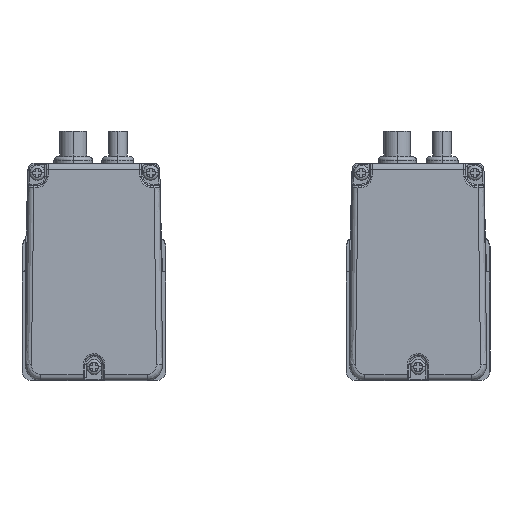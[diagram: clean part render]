
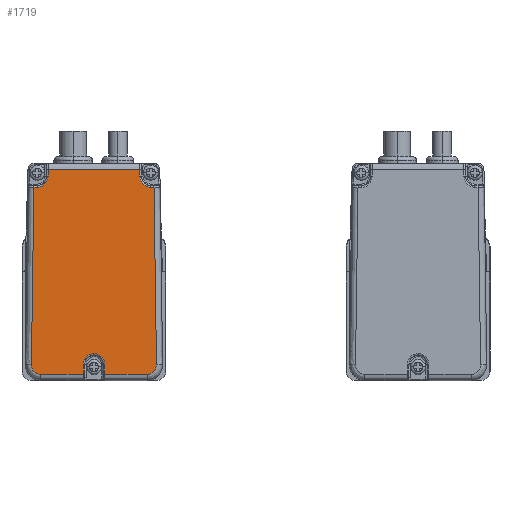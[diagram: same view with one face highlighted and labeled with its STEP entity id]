
A CAD part, left-side view. The second image highlights one B-rep face of the part: STEP entity #1719.
In plain terms, the highlighted planar face has unit normal (-1, 0, 0).
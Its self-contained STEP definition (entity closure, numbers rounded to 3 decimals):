
#1719=ADVANCED_FACE('',(#4079),#4080,.F.);
#4079=FACE_OUTER_BOUND('',#8077,.T.);
#4080=PLANE('',#8078);
#8077=EDGE_LOOP('',(#60075,#60076,#60077,#60078,#60079,#60080,#60081,#60082,#60083,#60084,#60085,#60086,#60087,#60088,#60089,#60090,#60091));
#8078=AXIS2_PLACEMENT_3D('',#60092,#60093,#60094);
#60075=ORIENTED_EDGE('',*,*,#68423,.F.);
#60076=ORIENTED_EDGE('',*,*,#68424,.F.);
#60077=ORIENTED_EDGE('',*,*,#68425,.F.);
#60078=ORIENTED_EDGE('',*,*,#68426,.F.);
#60079=ORIENTED_EDGE('',*,*,#67993,.F.);
#60080=ORIENTED_EDGE('',*,*,#68427,.F.);
#60081=ORIENTED_EDGE('',*,*,#68428,.F.);
#60082=ORIENTED_EDGE('',*,*,#68429,.F.);
#60083=ORIENTED_EDGE('',*,*,#67848,.F.);
#60084=ORIENTED_EDGE('',*,*,#68430,.F.);
#60085=ORIENTED_EDGE('',*,*,#68431,.F.);
#60086=ORIENTED_EDGE('',*,*,#68432,.F.);
#60087=ORIENTED_EDGE('',*,*,#68433,.F.);
#60088=ORIENTED_EDGE('',*,*,#68081,.F.);
#60089=ORIENTED_EDGE('',*,*,#68434,.F.);
#60090=ORIENTED_EDGE('',*,*,#67996,.F.);
#60091=ORIENTED_EDGE('',*,*,#68435,.F.);
#60092=CARTESIAN_POINT('',(60.75,84.221,103.38));
#60093=DIRECTION('',(1.0,0.0,0.0));
#60094=DIRECTION('',(0.0,0.0,-1.0));
#67848=EDGE_CURVE('',#71648,#71650,#71651,.T.);
#67993=EDGE_CURVE('',#71903,#71898,#71905,.T.);
#67996=EDGE_CURVE('',#71907,#71910,#71911,.T.);
#68081=EDGE_CURVE('',#72057,#72060,#72061,.T.);
#68423=EDGE_CURVE('',#72644,#72645,#72646,.T.);
#68424=EDGE_CURVE('',#72647,#72644,#72648,.T.);
#68425=EDGE_CURVE('',#72649,#72647,#72650,.T.);
#68426=EDGE_CURVE('',#71898,#72649,#72651,.T.);
#68427=EDGE_CURVE('',#72652,#71903,#72653,.T.);
#68428=EDGE_CURVE('',#72654,#72652,#72655,.T.);
#68429=EDGE_CURVE('',#71650,#72654,#72656,.T.);
#68430=EDGE_CURVE('',#72657,#71648,#72658,.T.);
#68431=EDGE_CURVE('',#72659,#72657,#72660,.T.);
#68432=EDGE_CURVE('',#72661,#72659,#72662,.T.);
#68433=EDGE_CURVE('',#72060,#72661,#72663,.T.);
#68434=EDGE_CURVE('',#71910,#72057,#72664,.T.);
#68435=EDGE_CURVE('',#72645,#71907,#72665,.T.);
#71648=VERTEX_POINT('',#77091);
#71650=VERTEX_POINT('',#77093);
#71651=LINE('',#77094,#77095);
#71898=VERTEX_POINT('',#78588);
#71903=VERTEX_POINT('',#78594);
#71905=LINE('',#78596,#78597);
#71907=VERTEX_POINT('',#78599);
#71910=VERTEX_POINT('',#78602);
#71911=ELLIPSE('',#78603,3.5,3.352);
#72057=VERTEX_POINT('',#80819);
#72060=VERTEX_POINT('',#80822);
#72061=LINE('',#80823,#80824);
#72644=VERTEX_POINT('',#83833);
#72645=VERTEX_POINT('',#83834);
#72646=LINE('',#83835,#83836);
#72647=VERTEX_POINT('',#83837);
#72648=LINE('',#83838,#83839);
#72649=VERTEX_POINT('',#83840);
#72650=ELLIPSE('',#83841,3.,2.873);
#72651=LINE('',#83842,#83843);
#72652=VERTEX_POINT('',#83844);
#72653=ELLIPSE('',#83845,3.5,3.352);
#72654=VERTEX_POINT('',#83846);
#72655=LINE('',#83847,#83848);
#72656=LINE('',#83849,#83850);
#72657=VERTEX_POINT('',#83851);
#72658=ELLIPSE('',#83852,3.5,3.352);
#72659=VERTEX_POINT('',#83853);
#72660=LINE('',#83854,#83855);
#72661=VERTEX_POINT('',#83856);
#72662=LINE('',#83857,#83858);
#72663=ELLIPSE('',#83859,3.,2.873);
#72664=LINE('',#83860,#83861);
#72665=ELLIPSE('',#83862,3.5,3.352);
#77091=CARTESIAN_POINT('',(60.75,118.162,101.38));
#77093=CARTESIAN_POINT('',(60.75,118.162,103.38));
#77094=CARTESIAN_POINT('',(60.75,118.162,86.63));
#77095=VECTOR('',#151533,1.);
#78588=CARTESIAN_POINT('',(60.75,85.02,97.88));
#78594=CARTESIAN_POINT('',(60.75,86.083,97.88));
#78596=CARTESIAN_POINT('',(60.75,94.701,97.88));
#78597=VECTOR('',#151728,0.958);
#78599=CARTESIAN_POINT('',(60.75,103.798,45.88));
#78602=CARTESIAN_POINT('',(60.75,107.149,42.38));
#78603=AXIS2_PLACEMENT_3D('',#151732,#151733,#151734);
#80819=CARTESIAN_POINT('',(60.75,107.149,39.38));
#80822=CARTESIAN_POINT('',(60.75,120.485,39.38));
#80823=CARTESIAN_POINT('',(60.75,103.798,39.38));
#80824=VECTOR('',#151839,0.958);
#83833=CARTESIAN_POINT('',(60.75,100.446,39.38));
#83834=CARTESIAN_POINT('',(60.75,100.446,42.38));
#83835=CARTESIAN_POINT('',(60.75,100.446,56.38));
#83836=VECTOR('',#152317,1.);
#83837=CARTESIAN_POINT('',(60.75,87.111,39.38));
#83838=CARTESIAN_POINT('',(60.75,103.798,39.38));
#83839=VECTOR('',#152318,0.958);
#83840=CARTESIAN_POINT('',(60.75,84.239,42.425));
#83841=AXIS2_PLACEMENT_3D('',#152319,#152320,#152321);
#83842=CARTESIAN_POINT('',(60.75,84.648,71.513));
#83843=VECTOR('',#152322,1.);
#83844=CARTESIAN_POINT('',(60.75,89.434,101.38));
#83845=AXIS2_PLACEMENT_3D('',#152323,#152324,#152325);
#83846=CARTESIAN_POINT('',(60.75,89.434,103.38));
#83847=CARTESIAN_POINT('',(60.75,89.434,86.63));
#83848=VECTOR('',#152326,1.0);
#83849=CARTESIAN_POINT('',(60.75,103.798,103.38));
#83850=VECTOR('',#152327,0.958);
#83851=CARTESIAN_POINT('',(60.75,121.513,97.88));
#83852=AXIS2_PLACEMENT_3D('',#152328,#152329,#152330);
#83853=CARTESIAN_POINT('',(60.75,122.576,97.88));
#83854=CARTESIAN_POINT('',(60.75,112.895,97.88));
#83855=VECTOR('',#152331,0.958);
#83856=CARTESIAN_POINT('',(60.75,123.357,42.425));
#83857=CARTESIAN_POINT('',(60.75,122.947,71.513));
#83858=VECTOR('',#152332,1.);
#83859=AXIS2_PLACEMENT_3D('',#152333,#152334,#152335);
#83860=CARTESIAN_POINT('',(60.75,107.149,56.38));
#83861=VECTOR('',#152336,1.);
#83862=AXIS2_PLACEMENT_3D('',#152337,#152338,#152339);
#151533=DIRECTION('',(0.0,0.0,1.0));
#151728=DIRECTION('',(0.0,-1.0,0.0));
#151732=CARTESIAN_POINT('',(60.75,103.798,42.38));
#151733=DIRECTION('',(-1.0,0.0,0.0));
#151734=DIRECTION('',(0.0,0.,1.0));
#151839=DIRECTION('',(0.0,1.0,0.0));
#152317=DIRECTION('',(0.0,0.0,1.0));
#152318=DIRECTION('',(0.0,1.0,0.0));
#152319=CARTESIAN_POINT('',(60.75,87.111,42.38));
#152320=DIRECTION('',(1.0,0.0,0.0));
#152321=DIRECTION('',(0.0,0.,-1.0));
#152322=DIRECTION('',(0.0,-0.014,-1.));
#152323=CARTESIAN_POINT('',(60.75,86.083,101.38));
#152324=DIRECTION('',(-1.0,0.0,0.0));
#152325=DIRECTION('',(0.0,0.,1.0));
#152326=DIRECTION('',(0.0,0.0,-1.0));
#152327=DIRECTION('',(0.0,-1.0,0.0));
#152328=CARTESIAN_POINT('',(60.75,121.513,101.38));
#152329=DIRECTION('',(-1.0,0.0,0.0));
#152330=DIRECTION('',(0.0,0.,1.0));
#152331=DIRECTION('',(0.0,-1.0,0.0));
#152332=DIRECTION('',(0.0,-0.014,1.));
#152333=CARTESIAN_POINT('',(60.75,120.485,42.38));
#152334=DIRECTION('',(1.0,0.0,0.0));
#152335=DIRECTION('',(0.0,0.,-1.0));
#152336=DIRECTION('',(0.0,0.0,-1.0));
#152337=CARTESIAN_POINT('',(60.75,103.798,42.38));
#152338=DIRECTION('',(-1.0,0.0,0.0));
#152339=DIRECTION('',(0.0,0.,1.0));
